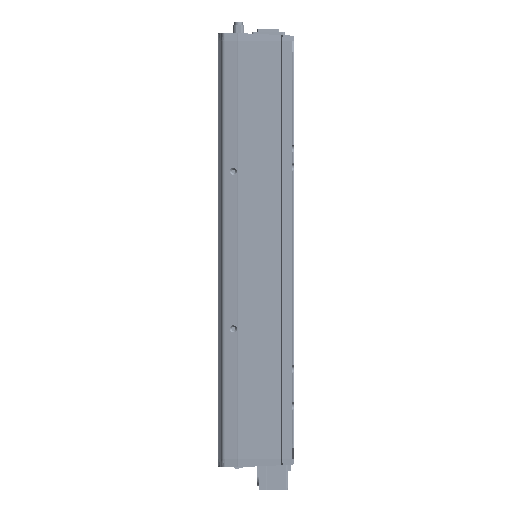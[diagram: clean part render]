
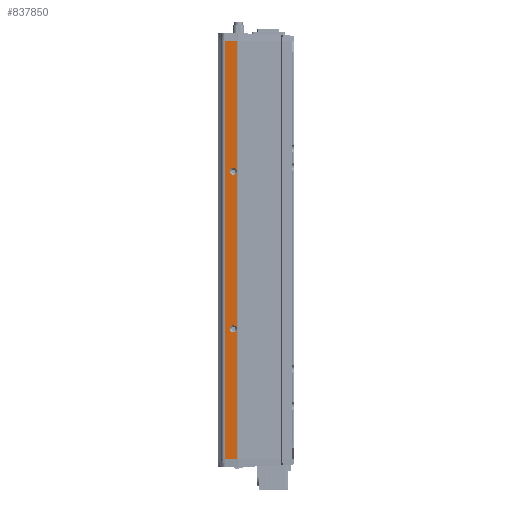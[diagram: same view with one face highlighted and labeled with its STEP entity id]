
A CAD part, left-side view. The second image highlights one B-rep face of the part: STEP entity #837850.
In plain terms, the highlighted planar face has unit normal (-0.995, 0.104, 0).
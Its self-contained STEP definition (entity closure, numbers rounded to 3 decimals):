
#817050=CARTESIAN_POINT('',(1975.16,76.808,431.756)
);
#817060=VERTEX_POINT('',#817050);
#817090=CARTESIAN_POINT('',(1967.087,0.,431.756));
#817100=DIRECTION('',(-0.105,-0.995,0.));
#817110=VECTOR('',#817100,1.);
#817120=LINE('',#817090,#817110);
#817130=CARTESIAN_POINT('',(1976.316,87.804,431.756
));
#817140=VERTEX_POINT('',#817130);
#817150=EDGE_CURVE('',#817140,#817060,#817120,.T.);
#827860=CARTESIAN_POINT('',(1976.316,87.804,46.756)
);
#827870=VERTEX_POINT('',#827860);
#827900=CARTESIAN_POINT('',(1967.087,0.,46.756));
#827910=DIRECTION('',(0.105,0.995,0.));
#827920=VECTOR('',#827910,1.);
#827930=LINE('',#827900,#827920);
#827940=CARTESIAN_POINT('',(1975.16,76.808,46.756))
;
#827950=VERTEX_POINT('',#827940);
#827960=EDGE_CURVE('',#827950,#827870,#827930,.T.);
#836700=CARTESIAN_POINT('',(1976.316,87.804,373.756
));
#836710=DIRECTION('',(0.,0.,-1.));
#836720=VECTOR('',#836710,1.);
#836730=LINE('',#836700,#836720);
#836740=EDGE_CURVE('',#817140,#827870,#836730,.T.);
#836790=CARTESIAN_POINT('',(1976.603,90.531,122.9));
#836800=DIRECTION('',(0.995,-0.105,0.));
#836810=DIRECTION('',(0.105,0.995,0.));
#836820=AXIS2_PLACEMENT_3D('',#836790,#836800,#836810);
#836830=PLANE('',#836820);
#836840=ORIENTED_EDGE('',*,*,#817150,.F.);
#836850=CARTESIAN_POINT('',(1975.16,76.808,0.));
#836860=DIRECTION('',(0.,0.,1.));
#836870=VECTOR('',#836860,1.);
#836880=LINE('',#836850,#836870);
#836890=CARTESIAN_POINT('',(1975.16,76.808,
312.64));
#836900=VERTEX_POINT('',#836890);
#836910=EDGE_CURVE('',#836900,#817060,#836880,.T.);
#836920=ORIENTED_EDGE('',*,*,#836910,.T.);
#836930=CARTESIAN_POINT('',(1975.488,79.927,308.506));
#836940=CARTESIAN_POINT('',(1975.524,80.271,308.506)
);
#836950=CARTESIAN_POINT('',(1975.56,80.609,
308.56));
#836960=CARTESIAN_POINT('',(1975.648,81.447,
308.834));
#836970=CARTESIAN_POINT('',(1975.696,81.909,
309.128));
#836980=CARTESIAN_POINT('',(1975.774,82.651,
309.912));
#836990=CARTESIAN_POINT('',(1975.802,82.917,
310.388));
#837000=CARTESIAN_POINT('',(1975.832,83.198,
311.431));
#837010=CARTESIAN_POINT('',(1975.833,83.206,
311.978));
#837020=CARTESIAN_POINT('',(1975.807,82.957,
313.031));
#837030=CARTESIAN_POINT('',(1975.78,82.705,
313.518));
#837040=CARTESIAN_POINT('',(1975.704,81.983,
314.326));
#837050=CARTESIAN_POINT('',(1975.656,81.528,
314.635));
#837060=CARTESIAN_POINT('',(1975.549,80.507,
314.998));
#837070=CARTESIAN_POINT('',(1975.492,79.96,
315.052));
#837080=CARTESIAN_POINT('',(1975.379,78.892,
314.882));
#837090=CARTESIAN_POINT('',(1975.326,78.386,
314.667));
#837100=CARTESIAN_POINT('',(1975.236,77.531,
314.009));
#837110=CARTESIAN_POINT('',(1975.2,77.189,
313.578));
#837120=CARTESIAN_POINT('',(1975.154,76.749,
312.592));
#837130=CARTESIAN_POINT('',(1975.144,76.654,
312.048));
#837140=CARTESIAN_POINT('',(1975.153,76.736,
310.97));
#837150=CARTESIAN_POINT('',(1975.171,76.913,
310.446));
#837160=CARTESIAN_POINT('',(1975.233,77.499,
309.534));
#837170=CARTESIAN_POINT('',(1975.276,77.905,
309.159));
#837180=CARTESIAN_POINT('',(1975.376,78.857,
308.639));
#837190=CARTESIAN_POINT('',(1975.432,79.39,308.506
));
#837200=CARTESIAN_POINT('',(1975.488,79.927,308.506));
#837210=B_SPLINE_CURVE_WITH_KNOTS('',3,(#836930,#836940,#836950,#836960,
#836970,#836980,#836990,#837000,#837010,#837020,#837030,#837040,#837050,
#837060,#837070,#837080,#837090,#837100,#837110,#837120,#837130,#837140,
#837150,#837160,#837170,#837180,#837190,#837200),.UNSPECIFIED.,.T.,.F.,(
1,3,2,2,2,2,2,2,2,2,2,2,2,2,3,1),(-1.239,0.,0.794
,2.07,3.358,4.651,5.945,
7.228,8.487,9.712,10.909,
12.09,13.278,14.488,15.727,
16.521),.UNSPECIFIED.);
#837220=CARTESIAN_POINT('',(1975.519,80.221,
314.992));
#837230=VERTEX_POINT('',#837220);
#837240=EDGE_CURVE('',#837230,#836900,#837210,.T.);
#837250=ORIENTED_EDGE('',*,*,#837240,.T.);
#837260=CARTESIAN_POINT('',(1975.488,79.927,308.506));
#837270=VERTEX_POINT('',#837260);
#837280=EDGE_CURVE('',#837270,#837230,#837210,.T.);
#837290=ORIENTED_EDGE('',*,*,#837280,.T.);
#837300=CARTESIAN_POINT('',(1975.16,76.808,
310.871));
#837310=VERTEX_POINT('',#837300);
#837320=EDGE_CURVE('',#837310,#837270,#837210,.T.);
#837330=ORIENTED_EDGE('',*,*,#837320,.T.);
#837340=CARTESIAN_POINT('',(1975.16,76.808,
167.64));
#837350=VERTEX_POINT('',#837340);
#837360=EDGE_CURVE('',#837350,#837310,#836880,.T.);
#837370=ORIENTED_EDGE('',*,*,#837360,.T.);
#837380=CARTESIAN_POINT('',(1975.488,79.927,163.506));
#837390=CARTESIAN_POINT('',(1975.524,80.271,163.506)
);
#837400=CARTESIAN_POINT('',(1975.56,80.609,
163.56));
#837410=CARTESIAN_POINT('',(1975.648,81.447,
163.834));
#837420=CARTESIAN_POINT('',(1975.696,81.909,
164.128));
#837430=CARTESIAN_POINT('',(1975.774,82.651,
164.912));
#837440=CARTESIAN_POINT('',(1975.802,82.917,
165.388));
#837450=CARTESIAN_POINT('',(1975.832,83.198,
166.431));
#837460=CARTESIAN_POINT('',(1975.833,83.206,
166.978));
#837470=CARTESIAN_POINT('',(1975.807,82.957,
168.031));
#837480=CARTESIAN_POINT('',(1975.78,82.705,
168.518));
#837490=CARTESIAN_POINT('',(1975.704,81.983,
169.326));
#837500=CARTESIAN_POINT('',(1975.656,81.528,
169.635));
#837510=CARTESIAN_POINT('',(1975.549,80.507,
169.998));
#837520=CARTESIAN_POINT('',(1975.492,79.96,
170.052));
#837530=CARTESIAN_POINT('',(1975.379,78.892,
169.882));
#837540=CARTESIAN_POINT('',(1975.326,78.386,
169.667));
#837550=CARTESIAN_POINT('',(1975.236,77.531,
169.009));
#837560=CARTESIAN_POINT('',(1975.2,77.189,
168.578));
#837570=CARTESIAN_POINT('',(1975.154,76.749,
167.592));
#837580=CARTESIAN_POINT('',(1975.144,76.654,
167.048));
#837590=CARTESIAN_POINT('',(1975.153,76.736,
165.97));
#837600=CARTESIAN_POINT('',(1975.171,76.913,
165.446));
#837610=CARTESIAN_POINT('',(1975.233,77.499,
164.534));
#837620=CARTESIAN_POINT('',(1975.276,77.905,
164.159));
#837630=CARTESIAN_POINT('',(1975.376,78.857,
163.639));
#837640=CARTESIAN_POINT('',(1975.432,79.39,163.506
));
#837650=CARTESIAN_POINT('',(1975.488,79.927,163.506));
#837660=B_SPLINE_CURVE_WITH_KNOTS('',3,(#837380,#837390,#837400,#837410,
#837420,#837430,#837440,#837450,#837460,#837470,#837480,#837490,#837500,
#837510,#837520,#837530,#837540,#837550,#837560,#837570,#837580,#837590,
#837600,#837610,#837620,#837630,#837640,#837650),.UNSPECIFIED.,.T.,.F.,(
1,3,2,2,2,2,2,2,2,2,2,2,2,2,3,1),(-1.239,0.,0.794
,2.07,3.358,4.651,5.945,
7.228,8.487,9.712,10.909,
12.09,13.278,14.488,15.727,
16.521),.UNSPECIFIED.);
#837670=CARTESIAN_POINT('',(1975.519,80.221,
169.992));
#837680=VERTEX_POINT('',#837670);
#837690=EDGE_CURVE('',#837680,#837350,#837660,.T.);
#837700=ORIENTED_EDGE('',*,*,#837690,.T.);
#837710=CARTESIAN_POINT('',(1975.488,79.927,163.506
));
#837720=VERTEX_POINT('',#837710);
#837730=EDGE_CURVE('',#837720,#837680,#837660,.T.);
#837740=ORIENTED_EDGE('',*,*,#837730,.T.);
#837750=CARTESIAN_POINT('',(1975.16,76.808,
165.871));
#837760=VERTEX_POINT('',#837750);
#837770=EDGE_CURVE('',#837760,#837720,#837660,.T.);
#837780=ORIENTED_EDGE('',*,*,#837770,.T.);
#837790=EDGE_CURVE('',#827950,#837760,#836880,.T.);
#837800=ORIENTED_EDGE('',*,*,#837790,.T.);
#837810=ORIENTED_EDGE('',*,*,#827960,.F.);
#837820=ORIENTED_EDGE('',*,*,#836740,.T.);
#837830=EDGE_LOOP('',(#837820,#837810,#837800,#837780,#837740,#837700,
#837370,#837330,#837290,#837250,#836920,#836840));
#837840=FACE_OUTER_BOUND('',#837830,.T.);
#837850=ADVANCED_FACE('',(#837840),#836830,.F.);
